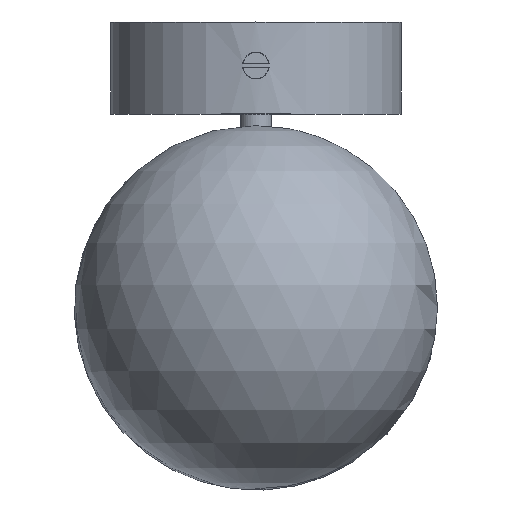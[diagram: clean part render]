
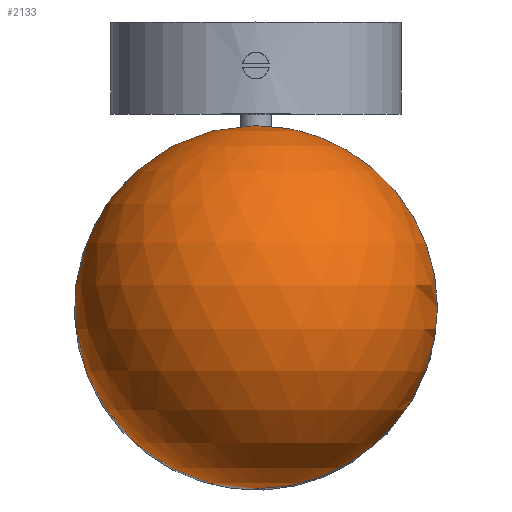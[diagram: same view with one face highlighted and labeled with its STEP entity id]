
A CAD part, top view. The second image highlights one B-rep face of the part: STEP entity #2133.
In plain terms, the highlighted spherical face has radius 75 mm.
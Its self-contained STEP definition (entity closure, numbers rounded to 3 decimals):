
#60=SPHERICAL_SURFACE('',#2379,75.);
#390=FACE_BOUND('',#651,.T.);
#490=FACE_OUTER_BOUND('',#650,.T.);
#650=EDGE_LOOP('',(#1704,#1705));
#651=EDGE_LOOP('',(#1706));
#812=CIRCLE('',#2373,16.5);
#817=CIRCLE('',#2380,75.);
#997=VERTEX_POINT('',#3793);
#1002=VERTEX_POINT('',#3806);
#1003=VERTEX_POINT('',#3807);
#1258=EDGE_CURVE('',#997,#997,#812,.T.);
#1264=EDGE_CURVE('',#1002,#1003,#817,.T.);
#1704=ORIENTED_EDGE('',*,*,#1264,.T.);
#1705=ORIENTED_EDGE('',*,*,#1264,.F.);
#1706=ORIENTED_EDGE('',*,*,#1258,.T.);
#2133=ADVANCED_FACE('',(#490,#390),#60,.T.);
#2373=AXIS2_PLACEMENT_3D('',#3794,#2873,#2874);
#2379=AXIS2_PLACEMENT_3D('',#3805,#2886,#2887);
#2380=AXIS2_PLACEMENT_3D('',#3808,#2888,#2889);
#2873=DIRECTION('center_axis',(0.,0.,
1.));
#2874=DIRECTION('ref_axis',(0.866,0.5,0.));
#2886=DIRECTION('center_axis',(0.,-1.,0.));
#2887=DIRECTION('ref_axis',(-1.,0.,0.));
#2888=DIRECTION('center_axis',(0.,0.,
1.));
#2889=DIRECTION('ref_axis',(1.,0.,0.));
#3793=CARTESIAN_POINT('',(-14.289,-8.25,329.018));
#3794=CARTESIAN_POINT('Origin',(0.,0.,
329.018));
#3805=CARTESIAN_POINT('Origin',(0.,0.,
402.181));
#3806=CARTESIAN_POINT('',(0.,-75.,402.181));
#3807=CARTESIAN_POINT('',(0.,75.,402.181));
#3808=CARTESIAN_POINT('Origin',(0.,0.,
402.181));
